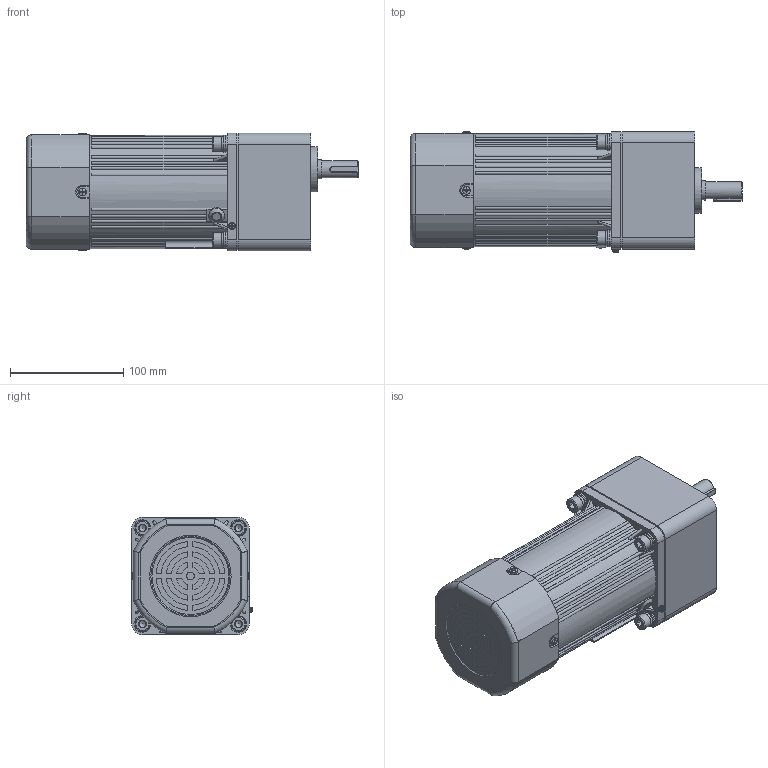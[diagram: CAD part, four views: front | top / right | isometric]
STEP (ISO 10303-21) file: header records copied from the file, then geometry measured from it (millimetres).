
FILE_DESCRIPTION(/* description */ (''),/* implementation_level */ '2;1');
FILE_NAME(/* name */ '6RK160-200CC·MF#6GU3-750K-C·15L.stp',/* time_stamp */ '2024-05-29T20:04:19+08:00',/* author */ (''),/* organization */ (''),/* preprocessor_version */ 'ST-DEVELOPER v18.102',/* originating_system */ 'SIEMENS PLM Software NX 2027',/* authorisation */ '');
FILE_SCHEMA (('AP203_CONFIGURATION_CONTROLLED_3D_DESIGN_OF_MECHANICAL_PARTS_AND_ASSEMBLIES_MIM_LF { 1 0 10303 403 2 1 2}'));
Length unit declared in the file: millimetre
Products named in the file (1): A0_objects
Bounding box: 293.5 x 106.83 x 104.06 mm (x, y, z)
Volume: 2517566.8 mm3; surface area: 364364.8 mm2
Topology: 24 solids, 24 shells, 1587 faces, 4190 edges, 2736 vertices
Faces by surface type: plane 638, cylinder 434, bspline 313, cone 111, torus 63, sphere 28
Full cylindrical faces by diameter (mm): 2.6 x2, 2.7 x1, 3 x3, 3.2 x2, 3.3 x4, 3.5 x4, 3.6 x4, 4 x5, 5.1 x2, 6 x2, 6.8 x20, 7 x2, 7.5 x2, 7.76 x4, 8.4 x4, 8.5 x4, 9 x9, 9.3 x1, 13 x5, 14 x9, 15 x6, 15.5 x2, 17 x1, 17.3 x1, 19 x2, 27 x1, 28 x1, 30 x3, 35 x1, 37 x1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
Entity records: 51578 total; most frequent: CARTESIAN_POINT 14330, ORIENTED_EDGE 7660, DIRECTION 6708, EDGE_CURVE 3830, AXIS2_PLACEMENT_3D 2681, VERTEX_POINT 2603, EDGE_LOOP 1994, ADVANCED_FACE 1587
